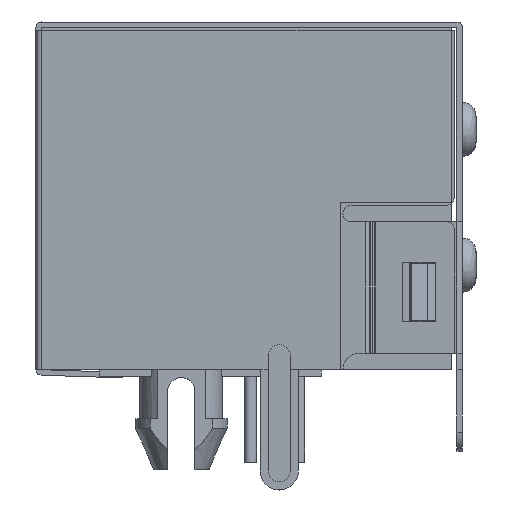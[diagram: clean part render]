
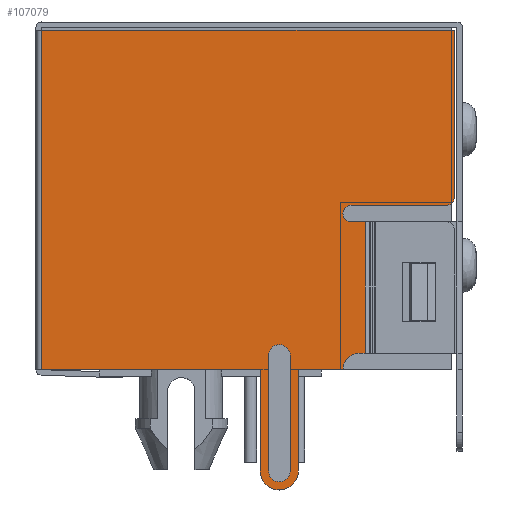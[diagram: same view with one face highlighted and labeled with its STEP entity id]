
A CAD part, front view. The second image highlights one B-rep face of the part: STEP entity #107079.
In plain terms, the highlighted planar face has unit normal (0, -1, 0).
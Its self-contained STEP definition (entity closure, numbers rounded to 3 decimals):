
#99120=DIRECTION('',(1.,0.,0.));
#99121=VECTOR('',#99120,8.06);
#99122=CARTESIAN_POINT('',(-7.751,-79.175,3.69));
#99123=LINE('',#99122,#99121);
#99132=DIRECTION('',(0.,0.,-1.));
#99133=VECTOR('',#99132,8.98);
#99134=CARTESIAN_POINT('',(-7.751,-79.175,13.94));
#99135=LINE('',#99134,#99133);
#99136=DIRECTION('',(0.,0.,-1.));
#99137=VECTOR('',#99136,1.27);
#99138=CARTESIAN_POINT('',(-7.751,-79.175,
4.96));
#99139=LINE('',#99138,#99137);
#99140=DIRECTION('',(0.,0.,-1.));
#99141=VECTOR('',#99140,2.25);
#99142=CARTESIAN_POINT('',(-7.751,-79.175,16.19));
#99143=LINE('',#99142,#99141);
#99144=DIRECTION('',(1.,0.,0.));
#99145=VECTOR('',#99144,15.203);
#99146=CARTESIAN_POINT('',(-7.751,-79.175,16.19));
#99147=LINE('',#99146,#99145);
#99148=DIRECTION('',(0.,0.,-1.));
#99149=VECTOR('',#99148,6.15);
#99150=CARTESIAN_POINT('',(7.452,-79.175,16.19));
#99151=LINE('',#99150,#99149);
#99152=CARTESIAN_POINT('',(7.152,-79.175,10.04));
#99153=DIRECTION('',(0.,1.,0.));
#99154=DIRECTION('',(1.,0.,0.));
#99155=AXIS2_PLACEMENT_3D('',#99152,#99153,#99154);
#99157=DIRECTION('',(-1.,0.,0.));
#99158=VECTOR('',#99157,3.5);
#99159=CARTESIAN_POINT('',(7.152,-79.175,9.74));
#99160=LINE('',#99159,#99158);
#99161=CARTESIAN_POINT('',(3.652,-79.175,9.44));
#99162=DIRECTION('',(0.,-1.,0.));
#99163=DIRECTION('',(0.,0.,1.));
#99164=AXIS2_PLACEMENT_3D('',#99161,#99162,#99163);
#99166=CARTESIAN_POINT('',(3.652,-79.175,9.44));
#99167=DIRECTION('',(0.,-1.,0.));
#99168=DIRECTION('',(-0.384,0.,-0.923));
#99169=AXIS2_PLACEMENT_3D('',#99166,#99167,#99168);
#99171=DIRECTION('',(1.,0.,0.));
#99172=VECTOR('',#99171,0.518);
#99173=CARTESIAN_POINT('',(3.652,-79.175,
9.14));
#99174=LINE('',#99173,#99172);
#99175=DIRECTION('',(0.,0.,-1.));
#99176=VECTOR('',#99175,4.85);
#99177=CARTESIAN_POINT('',(4.17,-79.175,
9.14));
#99178=LINE('',#99177,#99176);
#99179=DIRECTION('',(-1.,0.,
0.));
#99180=VECTOR('',#99179,0.218);
#99181=CARTESIAN_POINT('',(4.169,-79.175,4.29));
#99182=LINE('',#99181,#99180);
#99183=CARTESIAN_POINT('',(3.952,-79.175,3.69));
#99184=DIRECTION('',(0.,-1.,0.));
#99185=DIRECTION('',(0.,0.,1.));
#99186=AXIS2_PLACEMENT_3D('',#99183,#99184,#99185);
#99188=DIRECTION('',(-1.,0.,0.));
#99189=VECTOR('',#99188,1.643);
#99190=CARTESIAN_POINT('',(3.352,-79.175,3.69));
#99191=LINE('',#99190,#99189);
#99192=DIRECTION('',(0.,0.,-1.));
#99193=VECTOR('',#99192,3.73);
#99194=CARTESIAN_POINT('',(1.709,-79.175,3.69));
#99195=LINE('',#99194,#99193);
#99196=CARTESIAN_POINT('',(1.009,-79.175,-0.04));
#99197=DIRECTION('',(0.,1.,0.));
#99198=DIRECTION('',(1.,0.,0.));
#99199=AXIS2_PLACEMENT_3D('',#99196,#99197,#99198);
#99201=CARTESIAN_POINT('',(1.009,-79.175,-0.04));
#99202=DIRECTION('',(0.,1.,0.));
#99203=DIRECTION('',(-0.986,0.,-0.168));
#99204=AXIS2_PLACEMENT_3D('',#99201,#99202,#99203);
#99206=DIRECTION('',(0.,0.,1.));
#99207=VECTOR('',#99206,3.73);
#99208=CARTESIAN_POINT('',(0.309,-79.175,
-0.04));
#99209=LINE('',#99208,#99207);
#99210=DIRECTION('',(0.,0.,-1.));
#99211=VECTOR('',#99210,4.25);
#99212=CARTESIAN_POINT('',(0.609,-79.175,4.21));
#99213=LINE('',#99212,#99211);
#99214=CARTESIAN_POINT('',(1.009,-79.175,-0.04));
#99215=DIRECTION('',(0.,-1.,0.));
#99216=DIRECTION('',(-1.,0.,0.));
#99217=AXIS2_PLACEMENT_3D('',#99214,#99215,#99216);
#99219=CARTESIAN_POINT('',(1.009,-79.175,-0.04));
#99220=DIRECTION('',(0.,-1.,0.));
#99221=DIRECTION('',(0.998,0.,-0.063));
#99222=AXIS2_PLACEMENT_3D('',#99219,#99220,#99221);
#99224=DIRECTION('',(0.,0.,1.));
#99225=VECTOR('',#99224,4.25);
#99226=CARTESIAN_POINT('',(1.409,-79.175,-0.04));
#99227=LINE('',#99226,#99225);
#99228=CARTESIAN_POINT('',(1.009,-79.175,4.21));
#99229=DIRECTION('',(0.,-1.,0.));
#99230=DIRECTION('',(1.,0.,0.));
#99231=AXIS2_PLACEMENT_3D('',#99228,#99229,#99230);
#99233=CARTESIAN_POINT('',(1.009,-79.175,4.21));
#99234=DIRECTION('',(0.,-1.,0.));
#99235=DIRECTION('',(-0.998,0.,0.063));
#99236=AXIS2_PLACEMENT_3D('',#99233,#99234,#99235);
#104578=CARTESIAN_POINT('',(-7.751,-79.175,3.69));
#104579=VERTEX_POINT('',#104578);
#104580=CARTESIAN_POINT('',(0.309,-79.175,3.69));
#104581=VERTEX_POINT('',#104580);
#104584=CARTESIAN_POINT('',(-7.751,-79.175,13.94));
#104585=CARTESIAN_POINT('',(-7.751,-79.175,
4.96));
#104586=VERTEX_POINT('',#104584);
#104587=VERTEX_POINT('',#104585);
#104588=CARTESIAN_POINT('',(-7.751,-79.175,16.19));
#104589=VERTEX_POINT('',#104588);
#104590=CARTESIAN_POINT('',(7.452,-79.175,16.19));
#104591=VERTEX_POINT('',#104590);
#104592=CARTESIAN_POINT('',(7.452,-79.175,10.04));
#104593=VERTEX_POINT('',#104592);
#104594=CARTESIAN_POINT('',(7.152,-79.175,9.74));
#104595=VERTEX_POINT('',#104594);
#104596=CARTESIAN_POINT('',(3.652,-79.175,9.74));
#104597=VERTEX_POINT('',#104596);
#104598=CARTESIAN_POINT('',(3.536,-79.175,9.163));
#104599=VERTEX_POINT('',#104598);
#104600=CARTESIAN_POINT('',(3.652,-79.175,9.14));
#104601=VERTEX_POINT('',#104600);
#104602=CARTESIAN_POINT('',(4.17,-79.175,
9.14));
#104603=VERTEX_POINT('',#104602);
#104604=CARTESIAN_POINT('',(4.169,-79.175,4.29));
#104605=VERTEX_POINT('',#104604);
#104606=CARTESIAN_POINT('',(3.952,-79.175,4.29));
#104607=VERTEX_POINT('',#104606);
#104608=CARTESIAN_POINT('',(3.352,-79.175,3.69));
#104609=VERTEX_POINT('',#104608);
#104610=CARTESIAN_POINT('',(1.709,-79.175,3.69));
#104611=VERTEX_POINT('',#104610);
#104612=CARTESIAN_POINT('',(1.709,-79.175,-0.04));
#104613=VERTEX_POINT('',#104612);
#104614=CARTESIAN_POINT('',(0.319,-79.175,-0.158));
#104615=VERTEX_POINT('',#104614);
#104616=CARTESIAN_POINT('',(0.309,-79.175,-0.04));
#104617=VERTEX_POINT('',#104616);
#104618=CARTESIAN_POINT('',(0.609,-79.175,4.21));
#104619=CARTESIAN_POINT('',(0.609,-79.175,-0.04));
#104620=VERTEX_POINT('',#104618);
#104621=VERTEX_POINT('',#104619);
#104622=CARTESIAN_POINT('',(1.408,-79.175,-0.065));
#104623=VERTEX_POINT('',#104622);
#104624=CARTESIAN_POINT('',(1.409,-79.175,-0.04));
#104625=VERTEX_POINT('',#104624);
#104626=CARTESIAN_POINT('',(1.409,-79.175,4.21));
#104627=VERTEX_POINT('',#104626);
#104628=CARTESIAN_POINT('',(0.61,-79.175,4.235));
#104629=VERTEX_POINT('',#104628);
#107024=CARTESIAN_POINT('',(-0.15,-79.175,7.724));
#107025=DIRECTION('',(0.,1.,0.));
#107026=DIRECTION('',(1.,0.,0.));
#107027=AXIS2_PLACEMENT_3D('',#107024,#107025,#107026);
#107028=PLANE('',#107027);
#107029=ORIENTED_EDGE('',*,*,#107013,.F.);
#107030=ORIENTED_EDGE('',*,*,#107011,.F.);
#107031=ORIENTED_EDGE('',*,*,#107019,.F.);
#107033=ORIENTED_EDGE('',*,*,#107032,.T.);
#107035=ORIENTED_EDGE('',*,*,#107034,.T.);
#107037=ORIENTED_EDGE('',*,*,#107036,.T.);
#107039=ORIENTED_EDGE('',*,*,#107038,.T.);
#107041=ORIENTED_EDGE('',*,*,#107040,.T.);
#107043=ORIENTED_EDGE('',*,*,#107042,.T.);
#107045=ORIENTED_EDGE('',*,*,#107044,.T.);
#107047=ORIENTED_EDGE('',*,*,#107046,.T.);
#107049=ORIENTED_EDGE('',*,*,#107048,.T.);
#107051=ORIENTED_EDGE('',*,*,#107050,.T.);
#107053=ORIENTED_EDGE('',*,*,#107052,.T.);
#107055=ORIENTED_EDGE('',*,*,#107054,.T.);
#107057=ORIENTED_EDGE('',*,*,#107056,.T.);
#107059=ORIENTED_EDGE('',*,*,#107058,.T.);
#107061=ORIENTED_EDGE('',*,*,#107060,.T.);
#107062=ORIENTED_EDGE('',*,*,#106996,.F.);
#107063=EDGE_LOOP('',(#107029,#107030,#107031,#107033,#107035,#107037,#107039,
#107041,#107043,#107045,#107047,#107049,#107051,#107053,#107055,#107057,#107059,
#107061,#107062));
#107064=FACE_OUTER_BOUND('',#107063,.F.);
#107066=ORIENTED_EDGE('',*,*,#107065,.T.);
#107068=ORIENTED_EDGE('',*,*,#107067,.T.);
#107070=ORIENTED_EDGE('',*,*,#107069,.T.);
#107072=ORIENTED_EDGE('',*,*,#107071,.T.);
#107074=ORIENTED_EDGE('',*,*,#107073,.T.);
#107076=ORIENTED_EDGE('',*,*,#107075,.T.);
#107077=EDGE_LOOP('',(#107066,#107068,#107070,#107072,#107074,#107076));
#107078=FACE_BOUND('',#107077,.F.);
#107079=ADVANCED_FACE('',(#107064,#107078),#107028,.F.);
#99156=CIRCLE('',#99155,0.3);
#99165=CIRCLE('',#99164,0.3);
#99170=CIRCLE('',#99169,0.3);
#99187=CIRCLE('',#99186,0.6);
#99200=CIRCLE('',#99199,0.7);
#99205=CIRCLE('',#99204,0.7);
#99218=CIRCLE('',#99217,0.4);
#99223=CIRCLE('',#99222,0.4);
#99232=CIRCLE('',#99231,0.4);
#99237=CIRCLE('',#99236,0.4);
#106996=EDGE_CURVE('',#104579,#104581,#99123,.T.);
#107011=EDGE_CURVE('',#104586,#104587,#99135,.T.);
#107013=EDGE_CURVE('',#104587,#104579,#99139,.T.);
#107019=EDGE_CURVE('',#104589,#104586,#99143,.T.);
#107032=EDGE_CURVE('',#104589,#104591,#99147,.T.);
#107034=EDGE_CURVE('',#104591,#104593,#99151,.T.);
#107036=EDGE_CURVE('',#104593,#104595,#99156,.T.);
#107038=EDGE_CURVE('',#104595,#104597,#99160,.T.);
#107040=EDGE_CURVE('',#104597,#104599,#99165,.T.);
#107042=EDGE_CURVE('',#104599,#104601,#99170,.T.);
#107044=EDGE_CURVE('',#104601,#104603,#99174,.T.);
#107046=EDGE_CURVE('',#104603,#104605,#99178,.T.);
#107048=EDGE_CURVE('',#104605,#104607,#99182,.T.);
#107050=EDGE_CURVE('',#104607,#104609,#99187,.T.);
#107052=EDGE_CURVE('',#104609,#104611,#99191,.T.);
#107054=EDGE_CURVE('',#104611,#104613,#99195,.T.);
#107056=EDGE_CURVE('',#104613,#104615,#99200,.T.);
#107058=EDGE_CURVE('',#104615,#104617,#99205,.T.);
#107060=EDGE_CURVE('',#104617,#104581,#99209,.T.);
#107065=EDGE_CURVE('',#104620,#104621,#99213,.T.);
#107067=EDGE_CURVE('',#104621,#104623,#99218,.T.);
#107069=EDGE_CURVE('',#104623,#104625,#99223,.T.);
#107071=EDGE_CURVE('',#104625,#104627,#99227,.T.);
#107073=EDGE_CURVE('',#104627,#104629,#99232,.T.);
#107075=EDGE_CURVE('',#104629,#104620,#99237,.T.);
